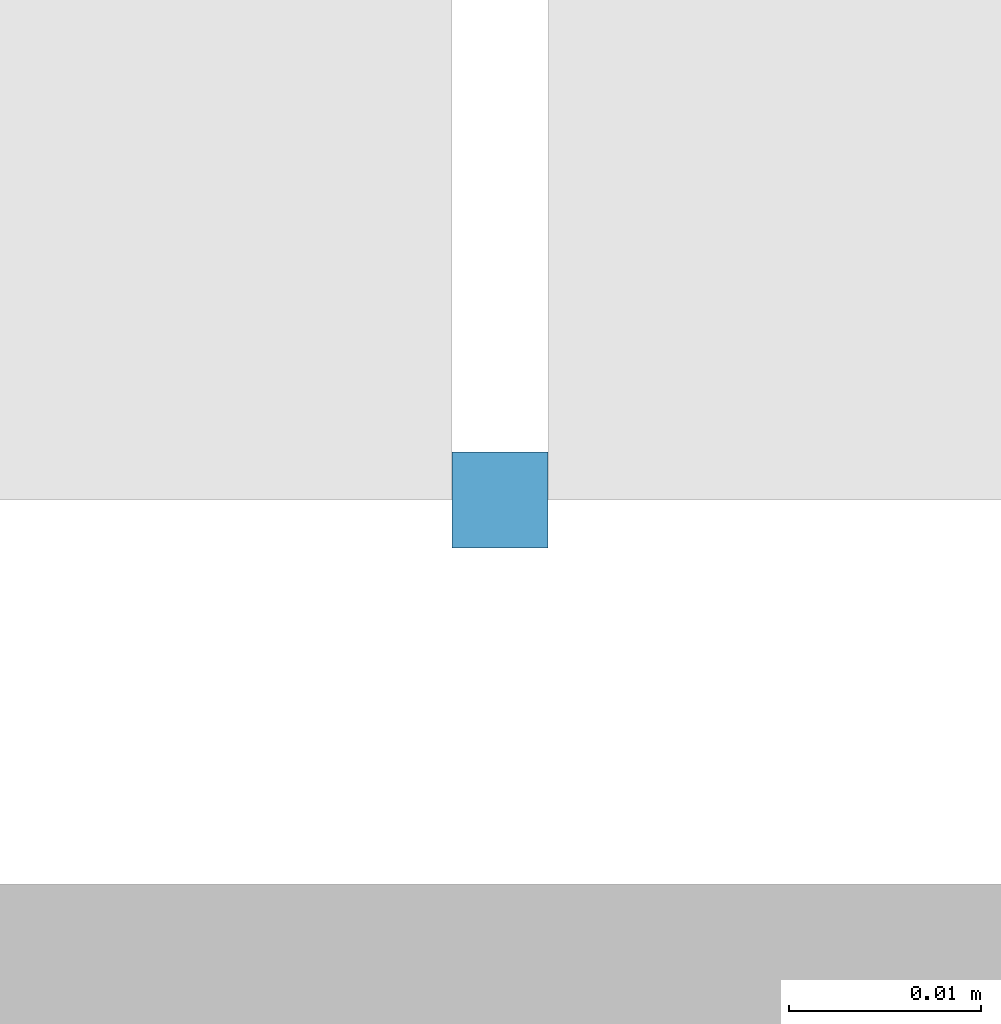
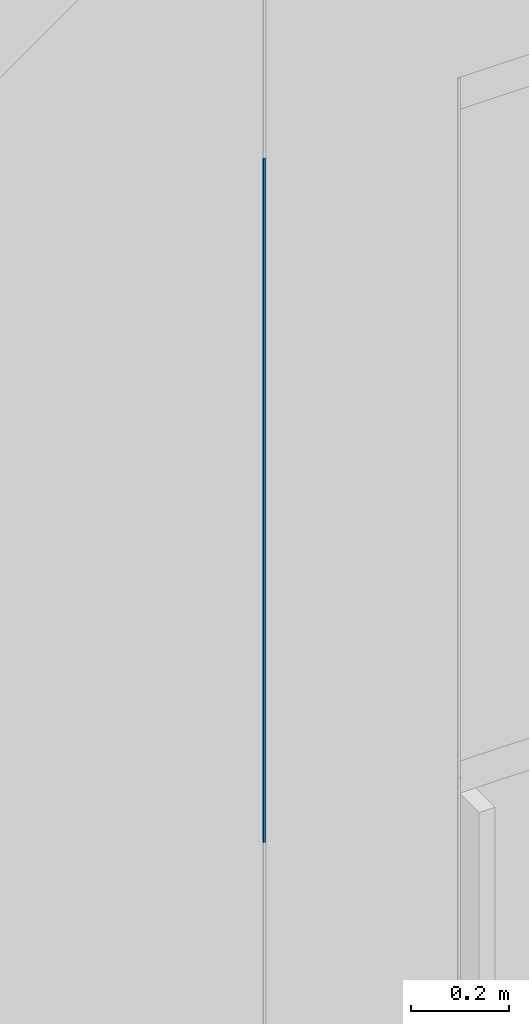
# One storey, part 118 of 302: 1 member, 1 element without a shape of its own.
"""IFC2X3 building model written with IfcOpenShell, lengths in metres."""

import ifcopenshell
import ifcopenshell.guid

model = None  # the IFC model being written
_history = None  # IfcOwnerHistory: only IFC2X3 demands one
_inside = {}  # id of a spatial element -> (the spatial element, [elements in it])
_under = {}  # id of a project, library or spatial element -> (it, [spatial elements below it])
_declared = {}  # id of a project -> (the project, [libraries it declares])
_typed = {}  # id of a type object -> (the type object, [elements of that type])
_made_of = {}  # id of a material, layer set ... -> (it, [elements and type objects made of it])


def new_model(schema):
    """Start an empty IFC model of exactly this schema.

    Asked for "IFC4X3", IfcOpenShell would pick the latest addendum, in which some entities
    have other attributes; the version numbers below select the first issue.
    IFC2X3 requires an IfcOwnerHistory on every rooted entity: one is made here for all.
    """
    global model, _history
    if schema == "IFC4X3":
        model = ifcopenshell.file(schema_version=(4, 3, 0, 0))
    else:
        model = ifcopenshell.file(schema=schema)
    _inside.clear()
    _under.clear()
    _declared.clear()
    _typed.clear()
    _made_of.clear()
    _history = None
    if model.schema == "IFC2X3":
        org = make("IfcOrganization", Name="unknown")
        user = make(
            "IfcPersonAndOrganization",
            ThePerson=make("IfcPerson", FamilyName="unknown"),
            TheOrganization=org,
        )
        app = make(
            "IfcApplication",
            ApplicationDeveloper=org,
            Version="unknown",
            ApplicationFullName="unknown",
            ApplicationIdentifier="unknown",
        )
        _history = make(
            "IfcOwnerHistory",
            OwningUser=user,
            OwningApplication=app,
            ChangeAction="ADDED",
            CreationDate=0,
        )
    return model


def make(cls, **values):
    """One entity of the class cls with the attributes given. An attribute that is None is left unset."""
    return model.create_entity(
        cls, **{name: value for name, value in values.items() if value is not None}
    )


def entity(cls, *values):
    """Any entity or typed value of the class cls, its attributes in the order of the schema. None: left unset."""
    e = model.create_entity(cls)
    for i, value in enumerate(values):
        if value is not None:
            e[i] = value
    return e


def rooted(cls, **values):
    """An entity with a GlobalId (a new one), such as an element, a storey or a relation."""
    return make(cls, GlobalId=ifcopenshell.guid.new(), OwnerHistory=_history, **values)


def si_unit(unit_type, name, prefix=None):
    """IfcSIUnit, for example si_unit("LENGTHUNIT", "METRE", prefix="MILLI")."""
    return make("IfcSIUnit", UnitType=unit_type, Prefix=prefix, Name=name)


def converted_unit(unit_type, name, factor, base, dimensions=None, offset=None):
    """IfcConversionBasedUnit, such as the inch: factor (a typed value) times the base unit."""
    return make(
        "IfcConversionBasedUnit"
        if offset is None
        else "IfcConversionBasedUnitWithOffset",
        ConversionOffset=offset,
        Dimensions=None
        if dimensions is None
        else entity("IfcDimensionalExponents", *dimensions),
        UnitType=unit_type,
        Name=name,
        ConversionFactor=make(
            "IfcMeasureWithUnit", ValueComponent=factor, UnitComponent=base
        ),
    )


def derived_unit(unit_type, elements):
    """IfcDerivedUnit: a product of units, each with its exponent."""
    return make(
        "IfcDerivedUnit",
        Elements=[
            make("IfcDerivedUnitElement", Unit=unit, Exponent=power)
            for unit, power in elements
        ],
        UnitType=unit_type,
    )


def assignment(units):
    """IfcUnitAssignment: the units of a project."""
    return None if units is None else make("IfcUnitAssignment", Units=units)


def point(xyz):
    """IfcCartesianPoint."""
    return None if xyz is None else make("IfcCartesianPoint", Coordinates=xyz)


def direction(xyz):
    """IfcDirection."""
    return None if xyz is None else make("IfcDirection", DirectionRatios=xyz)


def frame(location, z_axis=None, x_axis=None):
    """IfcAxis2Placement3D, a coordinate frame: its origin and axes. An axis left out is left unset."""
    return make(
        "IfcAxis2Placement3D",
        Location=point(location),
        Axis=direction(z_axis),
        RefDirection=direction(x_axis),
    )


def frame_2d(location, x_axis=None):
    """IfcAxis2Placement2D, a coordinate frame in the plane: its origin and x axis."""
    return make(
        "IfcAxis2Placement2D", Location=point(location), RefDirection=direction(x_axis)
    )


def origin():
    """The frame at (0, 0, 0) with its axes left unset."""
    return frame((0.0, 0.0, 0.0))


def place(relative_to, where):
    """IfcLocalPlacement: puts the frame where relative to a parent placement (None: the world)."""
    return make(
        "IfcLocalPlacement", PlacementRelTo=relative_to, RelativePlacement=where
    )


def context(
    kind, dimensions, precision=None, world=None, true_north=None, identifier=None
):
    """IfcGeometricRepresentationContext, for example the 3D "Model" context."""
    return make(
        "IfcGeometricRepresentationContext",
        ContextIdentifier=identifier,
        ContextType=kind,
        CoordinateSpaceDimension=dimensions,
        Precision=precision,
        WorldCoordinateSystem=world,
        TrueNorth=true_north,
    )


def subcontext(parent, identifier, kind, view, scale=None):
    """IfcGeometricRepresentationSubContext, for example "Body" below "Model"."""
    return make(
        "IfcGeometricRepresentationSubContext",
        ContextIdentifier=identifier,
        ContextType=kind,
        ParentContext=parent,
        TargetScale=scale,
        TargetView=view,
    )


def project(units=None, contexts=None):
    """IfcProject with its units and contexts."""
    return rooted(
        "IfcProject",
        Name="project",
        RepresentationContexts=contexts,
        UnitsInContext=assignment(units),
    )


def spatial(cls, under=None, at=None, **own):
    """A site, building, storey or space (cls), placed at a placement, below another one or the project."""
    s = rooted(cls, ObjectPlacement=at, **own)
    if under is not None:
        _under.setdefault(under.id(), (under, []))[1].append(s)
    return s


def profile(cls, at=None, kind="AREA", **sizes):
    """A parametric profile (cls). Its sizes go by their IFC names, for example OverallWidth=200.0."""
    return make(cls, ProfileType=kind, Position=at, **sizes)


def rectangle(**sizes):
    """IfcRectangleProfileDef."""
    return profile("IfcRectangleProfileDef", **sizes)


def extrude(swept, where, along, depth):
    """IfcExtrudedAreaSolid: the profile swept, set in the frame where, extruded along a direction by depth."""
    return make(
        "IfcExtrudedAreaSolid",
        SweptArea=swept,
        Position=where,
        ExtrudedDirection=direction(along),
        Depth=depth,
    )


def shape(context_of_items, identifier, shape_type, items):
    """IfcShapeRepresentation: the items that make up one representation, for example the "Body"."""
    return make(
        "IfcShapeRepresentation",
        ContextOfItems=context_of_items,
        RepresentationIdentifier=identifier,
        RepresentationType=shape_type,
        Items=items,
    )


def source(mapping_origin, context_of_items, identifier, shape_type, items):
    """IfcRepresentationMap: a shape defined once, which mapped items show again and again."""
    return make(
        "IfcRepresentationMap",
        MappingOrigin=mapping_origin,
        MappedRepresentation=shape(context_of_items, identifier, shape_type, items),
    )


def transform(
    local_origin,
    x_axis=None,
    y_axis=None,
    z_axis=None,
    scale=None,
    scale2=None,
    scale3=None,
    uniform=True,
):
    """IfcCartesianTransformationOperator3D, or its non-uniform kind. x_axis, y_axis, z_axis: its Axis1, 2, 3."""
    if uniform:
        return make(
            "IfcCartesianTransformationOperator3D",
            Axis1=direction(x_axis),
            Axis2=direction(y_axis),
            LocalOrigin=point(local_origin),
            Scale=scale,
            Axis3=direction(z_axis),
        )
    return make(
        "IfcCartesianTransformationOperator3DnonUniform",
        Axis1=direction(x_axis),
        Axis2=direction(y_axis),
        LocalOrigin=point(local_origin),
        Scale=scale,
        Axis3=direction(z_axis),
        Scale2=scale2,
        Scale3=scale3,
    )


def mapped(mapping_source, mapping_target):
    """IfcMappedItem: shows the shape of a source again, moved by a transform."""
    return make(
        "IfcMappedItem", MappingSource=mapping_source, MappingTarget=mapping_target
    )


def material(Name=None, Category=None):
    """IfcMaterial."""
    return make("IfcMaterial", Name=Name, Category=Category)


def made_of(thing, what):
    """Note that an element or type object is made of a material, layer set ...; save() writes the relation."""
    if what is not None:
        _made_of.setdefault(what.id(), (what, []))[1].append(thing)
    return thing


def type_object(cls, material=None, **own):
    """A type object (cls), such as IfcWallType, which elements share."""
    return made_of(rooted(cls, **own), material)


def type_shapes(of_type, sources):
    """Give a type object the sources (RepresentationMaps) that its elements show as mapped items."""
    of_type.RepresentationMaps = sources


def element(
    cls,
    number,
    at=None,
    inside=None,
    cuts=None,
    type_object=None,
    material=None,
    context=None,
    identifier="Body",
    shape_type=None,
    held_by="IfcProductDefinitionShape",
    body=None,
    shapes=None,
    **own,
):
    """One element of the class cls, such as IfcWall. Its Tag is "e" and its number.

    at: its placement. inside: the storey or other place that contains it. cuts: it is an
    opening in that element (IfcRelVoidsElement). A single representation is given by context,
    identifier, shape_type and body (its items); several are given by shapes. held_by: the class
    of the entity that holds the representations. save() writes the other relations.
    """
    e = rooted(cls, Tag="e%d" % number, ObjectPlacement=at, **own)
    if body is not None:
        shapes = [shape(context, identifier, shape_type, body)]
    if shapes is not None:
        e.Representation = make(held_by, Representations=shapes)
    if inside is not None:
        _inside.setdefault(inside.id(), (inside, []))[1].append(e)
    if cuts is not None:
        rooted(
            "IfcRelVoidsElement", RelatingBuildingElement=cuts, RelatedOpeningElement=e
        )
    if type_object is not None:
        _typed.setdefault(type_object.id(), (type_object, []))[1].append(e)
    return made_of(e, material)


def aggregate(whole, parts):
    """IfcRelAggregates: a whole, such as a stair, and the parts it consists of."""
    return rooted("IfcRelAggregates", RelatingObject=whole, RelatedObjects=parts)


def save(model, path):
    """Write the relations noted so far, then the file.

    IfcRelAggregates (storeys below a building ...), IfcRelContainedInSpatialStructure (elements
    in a storey), IfcRelDefinesByType, IfcRelAssociatesMaterial and IfcRelDeclares: one each for
    every whole, place, type object, material and project.
    """
    for whole, parts in _under.values():
        aggregate(whole, parts)
    for where, things in _inside.values():
        rooted(
            "IfcRelContainedInSpatialStructure",
            RelatedElements=things,
            RelatingStructure=where,
        )
    for kind, things in _typed.values():
        rooted("IfcRelDefinesByType", RelatedObjects=things, RelatingType=kind)
    for what, things in _made_of.values():
        rooted("IfcRelAssociatesMaterial", RelatedObjects=things, RelatingMaterial=what)
    for by, libraries in _declared.values():
        rooted("IfcRelDeclares", RelatingContext=by, RelatedDefinitions=libraries)
    model.write(path)


model = new_model("IFC2X3")

# Units and contexts
model_context = context("Model", 3, precision=1e-05, world=origin(), true_north=direction((6.12303176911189e-17, 1.0)))
body_context = subcontext(model_context, "Body", "Model", "MODEL_VIEW")
ifc_project = project(units=[si_unit("LENGTHUNIT", "METRE"), si_unit("AREAUNIT", "SQUARE_METRE"), si_unit("VOLUMEUNIT", "CUBIC_METRE"), converted_unit("PLANEANGLEUNIT", "DEGREE", entity("IfcRatioMeasure", 0.0174532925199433), si_unit("PLANEANGLEUNIT", "RADIAN"), dimensions=[0, 0, 0, 0, 0, 0, 0]), si_unit("MASSUNIT", "GRAM", prefix="KILO"), derived_unit("MASSDENSITYUNIT", [(si_unit("MASSUNIT", "GRAM", prefix="KILO"), 1), (si_unit("LENGTHUNIT", "METRE"), -3)]), derived_unit("MOMENTOFINERTIAUNIT", [(si_unit("LENGTHUNIT", "METRE"), 4)]), si_unit("TIMEUNIT", "SECOND"), si_unit("FREQUENCYUNIT", "HERTZ"), si_unit("THERMODYNAMICTEMPERATUREUNIT", "DEGREE_CELSIUS"), derived_unit("THERMALTRANSMITTANCEUNIT", [(si_unit("MASSUNIT", "GRAM", prefix="KILO"), 1), (si_unit("THERMODYNAMICTEMPERATUREUNIT", "KELVIN"), -1), (si_unit("TIMEUNIT", "SECOND"), -3)]), derived_unit("VOLUMETRICFLOWRATEUNIT", [(si_unit("LENGTHUNIT", "METRE"), 3), (si_unit("TIMEUNIT", "SECOND"), -1)]), si_unit("ELECTRICCURRENTUNIT", "AMPERE"), si_unit("ELECTRICVOLTAGEUNIT", "VOLT"), si_unit("POWERUNIT", "WATT"), si_unit("FORCEUNIT", "NEWTON", prefix="KILO"), si_unit("ILLUMINANCEUNIT", "LUX"), si_unit("LUMINOUSFLUXUNIT", "LUMEN"), si_unit("LUMINOUSINTENSITYUNIT", "CANDELA"), derived_unit("USERDEFINED", [(si_unit("MASSUNIT", "GRAM", prefix="KILO"), -1), (si_unit("LENGTHUNIT", "METRE"), -2), (si_unit("TIMEUNIT", "SECOND"), 3), (si_unit("LUMINOUSFLUXUNIT", "LUMEN"), 1)]), derived_unit("LINEARVELOCITYUNIT", [(si_unit("LENGTHUNIT", "METRE"), 1), (si_unit("TIMEUNIT", "SECOND"), -1)]), si_unit("PRESSUREUNIT", "PASCAL"), derived_unit("USERDEFINED", [(si_unit("LENGTHUNIT", "METRE"), -2), (si_unit("MASSUNIT", "GRAM", prefix="KILO"), 1), (si_unit("TIMEUNIT", "SECOND"), -2)]), derived_unit("LINEARFORCEUNIT", [(si_unit("MASSUNIT", "GRAM", prefix="KILO"), 1), (si_unit("LENGTHUNIT", "METRE"), 1), (si_unit("TIMEUNIT", "SECOND"), -2), (si_unit("LENGTHUNIT", "METRE"), -1)]), derived_unit("PLANARFORCEUNIT", [(si_unit("MASSUNIT", "GRAM", prefix="KILO"), 1), (si_unit("LENGTHUNIT", "METRE"), 1), (si_unit("TIMEUNIT", "SECOND"), -2), (si_unit("LENGTHUNIT", "METRE"), -2)])], contexts=[model_context])

# Site, building, storey
site_placement = place(None, origin())
site = spatial("IfcSite", under=ifc_project, at=site_placement, Name="Default", CompositionType="ELEMENT")
building_placement = place(site_placement, origin())
building = spatial("IfcBuilding", under=site, at=building_placement, CompositionType="ELEMENT")
storey_placement = place(building_placement, frame((0.0, 0.0, -1.3)))
storey = spatial("IfcBuildingStorey", under=building, at=storey_placement, Name="00_EG", CompositionType="ELEMENT", Elevation=-1.3)

# Curtain wall, member
curtain_wall_type = type_object("IfcCurtainWallType", Name="Fassade:Curtain Wall 1", PredefinedType="NOTDEFINED")
curtain_wall_placement = place(storey_placement, frame((0.0, 0.0, 1.3)))
curtain_wall = element("IfcCurtainWall", 1, at=curtain_wall_placement, inside=storey, type_object=curtain_wall_type, Name="Fassade:Curtain Wall 1", ObjectType="Fassade:Curtain Wall 1")
ifc_material = material(Name="Aluminium")
member_type = type_object("IfcMemberType", Name="Rectangular Mullion:Paneele Spalt", PredefinedType="MULLION", material=ifc_material)
shared_shape = source(origin(), body_context, "Body", "SweptSolid", [
    extrude(rectangle(XDim=0.005, YDim=0.005, at=frame_2d((0.0, -6.50521303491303e-19), x_axis=(1.0, 0.0))), frame((0.0, 0.0, -1.70964751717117), z_axis=(0.0, 0.0, 1.0), x_axis=(0.0, -1.0, 0.0)), (0.0, 0.0, 1.0), 1.70964751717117),
])
type_shapes(member_type, [shared_shape])
member_placement = place(storey_placement, frame((-213.610111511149, 45.578088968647, 8.49999999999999), z_axis=(0.0, 0.0, -1.0), x_axis=(-1.0, 0.0, 0.0)))
member = element("IfcMember", 2, at=member_placement, type_object=member_type, material=ifc_material, Name="Rectangular Mullion:Paneele Spalt", ObjectType="Rectangular Mullion:Paneele Spalt", context=body_context, shape_type="MappedRepresentation", body=[
    mapped(shared_shape, transform((0.0, 0.0, 0.0), scale=1.0)),
])
aggregate(curtain_wall, [member])

save(model, "model.ifc")
